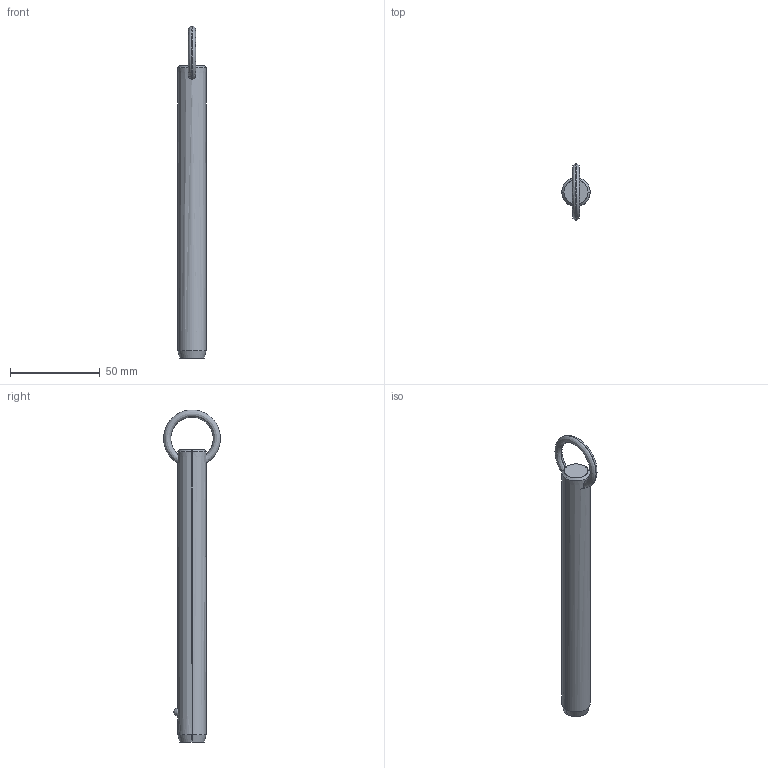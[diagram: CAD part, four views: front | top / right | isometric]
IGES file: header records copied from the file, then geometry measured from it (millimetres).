
Start section: SolidWorks IGES file using analytic representation for surfaces
Global section: file name: C:\Users\liam_\OneDrive\Documents\WORK\Work for WixRoyd\Job Files\J-00019 - Matt Davis CAD Checking\04. CAD Drawings\automotion20190605\P1250.2_v2\P1250.2_v2_20190729_IGES\P1250.062-530.igs; native system: SolidWorks 2017; preprocessor: SolidWorks 2017; author: liam_; date: 190729.233956; units: millimetre
Bounding box: 15.8 x 31.69 x 185.29 mm (x, y, z)
Surface area: 9269.7 mm2 (no closed solid volume)
Topology: 0 solids, 0 shells, 12 faces, 292 edges, 290 vertices
Faces by surface type: revolution 8, bspline 4
